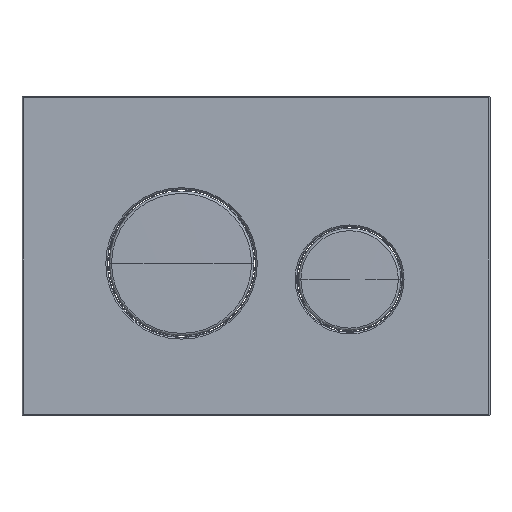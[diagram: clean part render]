
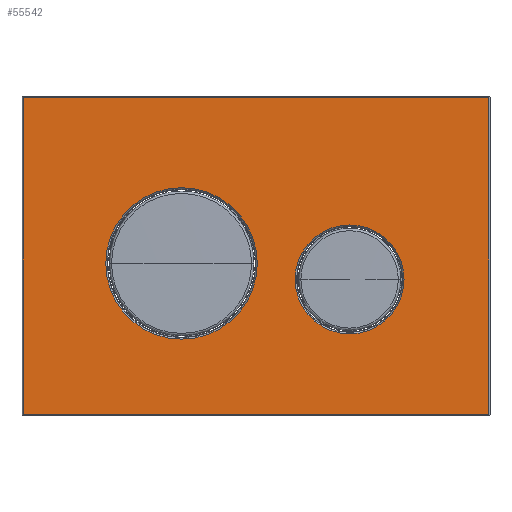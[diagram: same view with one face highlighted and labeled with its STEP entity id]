
A CAD part, top view. The second image highlights one B-rep face of the part: STEP entity #55542.
In plain terms, the highlighted planar face has unit normal (0, 0, 1).
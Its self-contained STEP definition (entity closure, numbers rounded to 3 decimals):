
#54825=CARTESIAN_POINT('',(-35.,-3.5,5.));
#54826=DIRECTION('',(0.,0.,-1.));
#54827=DIRECTION('',(1.,0.,0.));
#54828=AXIS2_PLACEMENT_3D('',#54825,#54826,#54827);
#54833=CARTESIAN_POINT('',(-35.,-3.5,5.));
#54834=DIRECTION('',(0.,0.,-1.));
#54835=DIRECTION('',(-1.,0.,0.));
#54836=AXIS2_PLACEMENT_3D('',#54833,#54834,#54835);
#54841=CARTESIAN_POINT('',(44.,-11.,5.));
#54842=DIRECTION('',(0.,0.,-1.));
#54843=DIRECTION('',(-1.,0.,0.));
#54844=AXIS2_PLACEMENT_3D('',#54841,#54842,#54843);
#54849=CARTESIAN_POINT('',(44.,-11.,5.));
#54850=DIRECTION('',(0.,0.,-1.));
#54851=DIRECTION('',(1.,0.,0.));
#54852=AXIS2_PLACEMENT_3D('',#54849,#54850,#54851);
#54857=DIRECTION('',(-1.,0.,0.));
#54858=VECTOR('',#54857,219.);
#54859=CARTESIAN_POINT('',(109.5,74.5,5.));
#54860=LINE('2631',#54859,#54858);
#54864=DIRECTION('',(0.,1.,0.));
#54865=VECTOR('',#54864,149.);
#54866=CARTESIAN_POINT('',(109.5,-74.5,5.));
#54867=LINE('2645',#54866,#54865);
#54871=DIRECTION('',(1.,0.,0.));
#54872=VECTOR('',#54871,219.);
#54873=CARTESIAN_POINT('',(-109.5,-74.5,5.));
#54874=LINE('2641',#54873,#54872);
#54878=DIRECTION('',(0.,-1.,0.));
#54879=VECTOR('',#54878,149.);
#54880=CARTESIAN_POINT('',(-109.5,74.5,5.));
#54881=LINE('2637',#54880,#54879);
#55306=CARTESIAN_POINT('',(0.6,-3.5,5.));
#55307=CARTESIAN_POINT('',(-70.6,-3.5,5.));
#55308=VERTEX_POINT('',#55306);
#55309=VERTEX_POINT('',#55307);
#55322=CARTESIAN_POINT('',(18.4,-11.,5.));
#55323=CARTESIAN_POINT('',(69.6,-11.,5.));
#55324=VERTEX_POINT('',#55322);
#55325=VERTEX_POINT('',#55323);
#55342=CARTESIAN_POINT('',(109.5,74.5,5.));
#55343=CARTESIAN_POINT('',(-109.5,74.5,5.));
#55344=VERTEX_POINT('',#55342);
#55345=VERTEX_POINT('',#55343);
#55356=CARTESIAN_POINT('',(-109.5,-74.5,5.));
#55357=VERTEX_POINT('',#55356);
#55364=CARTESIAN_POINT('',(109.5,-74.5,5.));
#55365=VERTEX_POINT('',#55364);
#55516=CARTESIAN_POINT('',(0.,0.,5.));
#55517=DIRECTION('',(0.,0.,1.));
#55518=DIRECTION('',(1.,0.,0.));
#55519=AXIS2_PLACEMENT_3D('',#55516,#55517,#55518);
#55520=PLANE('74',#55519);
#55522=ORIENTED_EDGE('2631',*,*,#55521,.F.);
#55524=ORIENTED_EDGE('2645',*,*,#55523,.F.);
#55526=ORIENTED_EDGE('2641',*,*,#55525,.F.);
#55528=ORIENTED_EDGE('2637',*,*,#55527,.F.);
#55529=EDGE_LOOP('74',(#55522,#55524,#55526,#55528));
#55530=FACE_OUTER_BOUND('74',#55529,.F.);
#55532=ORIENTED_EDGE('2164',*,*,#55531,.F.);
#55533=ORIENTED_EDGE('2166',*,*,#55506,.F.);
#55534=EDGE_LOOP('74',(#55532,#55533));
#55535=FACE_BOUND('74',#55534,.F.);
#55537=ORIENTED_EDGE('2172',*,*,#55536,.F.);
#55539=ORIENTED_EDGE('2174',*,*,#55538,.F.);
#55540=EDGE_LOOP('74',(#55537,#55539));
#55541=FACE_BOUND('74',#55540,.F.);
#55542=ADVANCED_FACE('74',(#55530,#55535,#55541),#55520,.T.);
#54829=CIRCLE('2164',#54828,35.6);
#54837=CIRCLE('2166',#54836,35.6);
#54845=CIRCLE('2172',#54844,25.6);
#54853=CIRCLE('2174',#54852,25.6);
#55506=EDGE_CURVE('2166',#55309,#55308,#54837,.T.);
#55521=EDGE_CURVE('2631',#55344,#55345,#54860,.T.);
#55523=EDGE_CURVE('2645',#55365,#55344,#54867,.T.);
#55525=EDGE_CURVE('2641',#55357,#55365,#54874,.T.);
#55527=EDGE_CURVE('2637',#55345,#55357,#54881,.T.);
#55531=EDGE_CURVE('2164',#55308,#55309,#54829,.T.);
#55536=EDGE_CURVE('2172',#55324,#55325,#54845,.T.);
#55538=EDGE_CURVE('2174',#55325,#55324,#54853,.T.);
